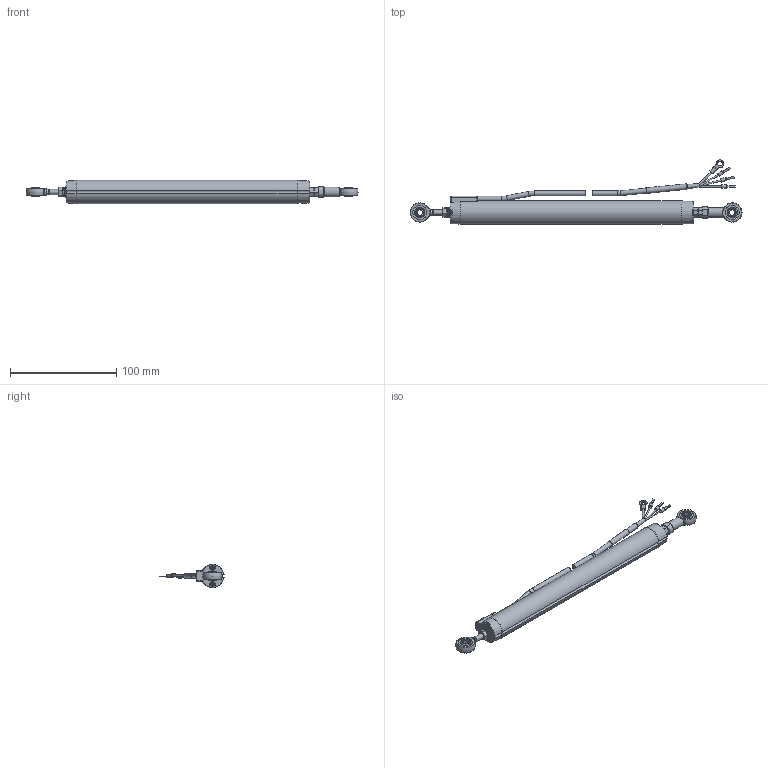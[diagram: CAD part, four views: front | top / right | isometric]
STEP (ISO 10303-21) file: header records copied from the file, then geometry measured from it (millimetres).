
FILE_DESCRIPTION(/* description */ (''),/* implementation_level */ '2;1');
FILE_NAME(/* name */ 'C:\Users\JN\Documents\CAD Drawings\The Sensor Connection\3D\LPPS\LPPS-22 Series\LPPS-22-175\LPPS-22-175.stp',/* time_stamp */ '2018-01-05T12:18:52-05:00',/* author */ ('JN'),/* organization */ (''),/* preprocessor_version */ 'ST-DEVELOPER v15.6',/* originating_system */ 'Autodesk Inventor 2015',/* authorisation */ '');
FILE_SCHEMA (('AUTOMOTIVE_DESIGN { 1 0 10303 214 3 1 1 }'));
Length unit declared in the file: inch
Products named in the file (21): Body_LPPS-22-175; End_sr; Seal; End; Male_rod_end; 91202A230_5_lock; 90591A146_5_hex; 91166A240_5_wash; Rod_LPPS-22-175; Backstop; Female_rod_end; Frontstop; Cable; Cable2; Shrink; Terminal; Brown_pin; Blue_pin; Black_pin; 92005A033_2mm_10mm; LPPS-22-175
Assembly tree (26 placements, depth 2):
  LPPS-22-175
    Body_LPPS-22-175
    End_sr
    Seal  x2
    End
    Male_rod_end
    91202A230_5_lock
    90591A146_5_hex  x3
    91166A240_5_wash
    Rod_LPPS-22-175
    Backstop
    Female_rod_end
    Frontstop
    Cable
    Cable2
    Shrink
    Terminal
    Brown_pin
    Blue_pin
    Black_pin
    92005A033_2mm_10mm  x4
Bounding box: 312.58 x 60.43 x 21.96 mm (x, y, z)
Volume: 52959.6 mm3; surface area: 49374.7 mm2
Topology: 30 solids, 30 shells, 557 faces, 2336 edges, 1843 vertices
Faces by surface type: plane 202, cylinder 153, cone 138, bspline 28, torus 22, sphere 14
Full cylindrical faces by diameter (mm): 1.27 x3, 1.575 x2, 2.286 x5, 3.175 x5, 3.81 x1, 3.881 x1, 4 x4, 4.134 x1, 4.191 x1, 4.342 x12, 4.572 x5, 4.826 x3, 4.851 x1, 4.953 x1, 5 x15, 5.004 x2, 5.08 x1, 5.207 x1, 5.3 x1, 6.35 x2, 9.144 x1, 10 x1, 12.675 x4, 12.7 x1, 15.875 x2, 17.78 x1
Entity records: 16276 total; most frequent: CARTESIAN_POINT 7317, ORIENTED_EDGE 1840, DIRECTION 1651, EDGE_CURVE 920, VERTEX_POINT 736, AXIS2_PLACEMENT_3D 730, EDGE_LOOP 514, ADVANCED_FACE 353
